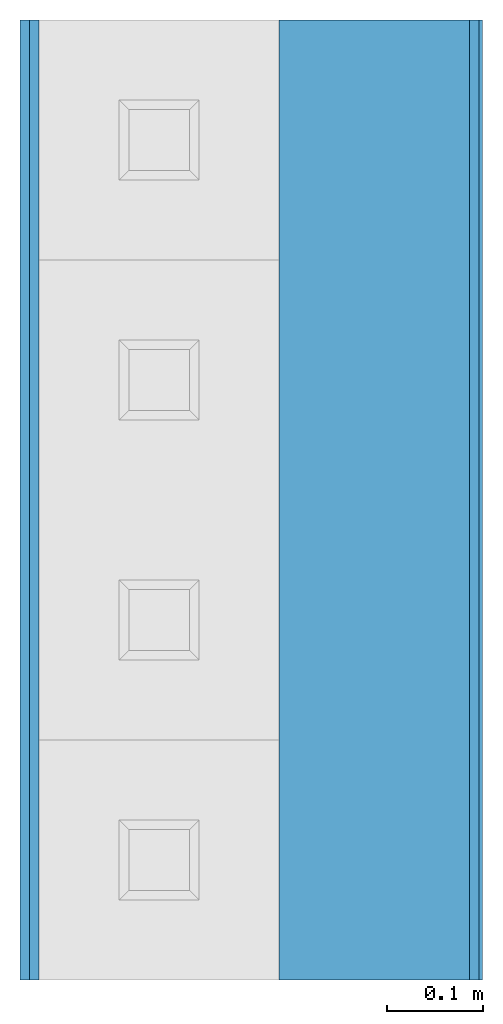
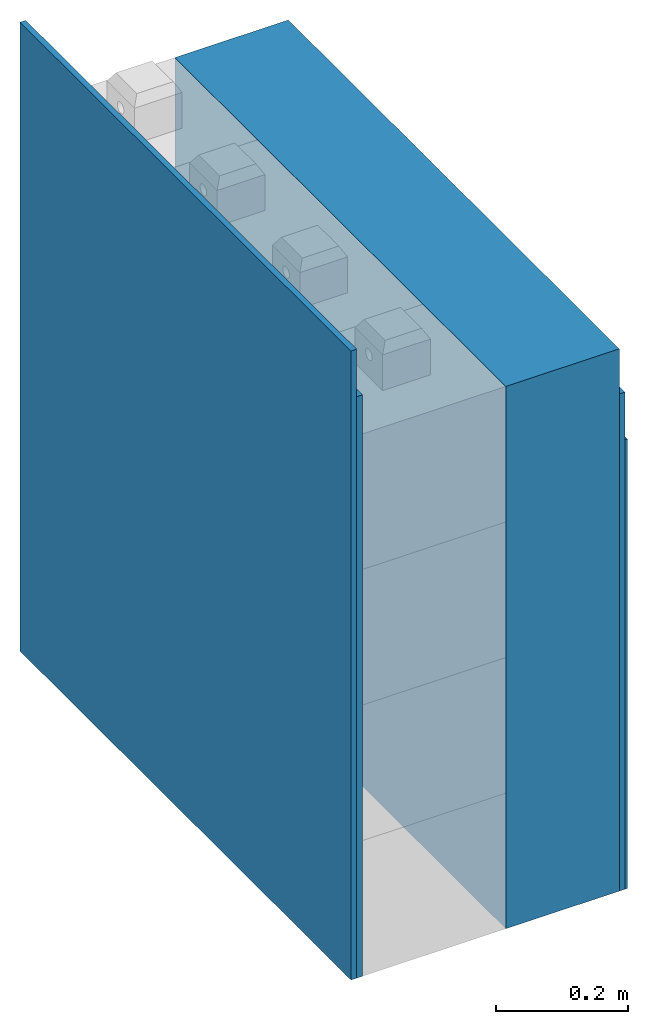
# One storey, incomplete: 5 walls.
"""IFC4 building model written with IfcOpenShell, lengths in centimetres."""

from ifc_helpers import new_model, entity, si_unit, converted_unit, direction, frame, origin, place, context, subcontext, project, spatial, indexed_curve, outline, extrude, material, constituent, constituent_set, type_object, element, save


model = new_model("IFC4")

# Units and contexts
model_context = context("Model", 3, precision=0.001, world=origin(), true_north=direction((0.0, 1.0)))
body_context = subcontext(model_context, "Body", "Model", "MODEL_VIEW")
ifc_project = project(units=[si_unit("LENGTHUNIT", "METRE", prefix="CENTI"), si_unit("AREAUNIT", "SQUARE_METRE"), si_unit("VOLUMEUNIT", "CUBIC_METRE"), converted_unit("PLANEANGLEUNIT", "DEGREE", entity("IfcPlaneAngleMeasure", 0.017453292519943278), si_unit("PLANEANGLEUNIT", "RADIAN"), dimensions=[0, 0, 0, 0, 0, 0, 0])], contexts=[model_context])

# Site, building, storey
site_placement = place(None, origin())
site = spatial("IfcSite", under=ifc_project, at=site_placement, Name="Default", CompositionType="ELEMENT")
building_placement = place(site_placement, origin())
building = spatial("IfcBuilding", under=site, at=building_placement, CompositionType="ELEMENT")
storey_placement = place(building_placement, frame((0.0, 0.0, -12.0)))
storey = spatial("IfcBuildingStorey", under=building, at=storey_placement, Name="L00__ABOVE Slab", CompositionType="ELEMENT", Elevation=-12.000000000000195)

# Walls
ifc_material_1 = material(Name="_FND LAYERS__Insulation__Foam Glass__Glapor", Category="Unassigned")
ifc_constituent_1 = constituent(ifc_material_1, Name="_FND LAYERS__Insulation__Foam Glass__Glapor", Category="Unassigned", fraction=1.0)
ifc_constituent_set_1 = constituent_set(constituents=[ifc_constituent_1], Name="Basic Wall:wll__WP & INSULATION_1cm")
wall_type_1 = type_object("IfcWallType", Name="Walls : Basic Wall : wll__WP & INSULATION_1cm", PredefinedType="STANDARD", material=ifc_constituent_set_1)
wall_1_placement = place(storey_placement, frame((5379.77310386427, 1584.809210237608, 10.0), z_axis=(0.0, 0.0, 1.0), x_axis=(0.0, 1.0, 0.0)))
element("IfcWall", 1, at=wall_1_placement, inside=storey, type_object=wall_type_1, material=ifc_constituent_set_1, Name="Walls : Basic Wall : wll__WP & INSULATION_1cm", PredefinedType="NOTDEFINED", context=body_context, shape_type="SweptSolid", body=[
    extrude(outline(indexed_curve([(100.00000000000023, 0.499999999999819), (4.668391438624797e-15, 0.4999999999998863), (-4.668391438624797e-15, -0.4999999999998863), (100.00000000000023, -0.4999999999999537), (100.00000000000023, 0.499999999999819)], self_intersect=False)), origin(), (0.0, 0.0, 1.0), 91.66666666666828),
])
wall_2_placement = place(storey_placement, frame((5333.973103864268, 1584.8092102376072, 10.0), z_axis=(0.0, 0.0, 1.0), x_axis=(0.0, 1.0, 0.0)))
element("IfcWall", 2, at=wall_2_placement, inside=storey, type_object=wall_type_1, material=ifc_constituent_set_1, Name="Walls : Basic Wall : wll__WP & INSULATION_1cm", PredefinedType="NOTDEFINED", context=body_context, shape_type="SweptSolid", body=[
    extrude(outline(indexed_curve([(100.00000000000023, 0.499999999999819), (4.668391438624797e-15, 0.4999999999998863), (-4.668391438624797e-15, -0.4999999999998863), (100.00000000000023, -0.4999999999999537), (100.00000000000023, 0.499999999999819)], self_intersect=False)), origin(), (0.0, 0.0, 1.0), 107.20293484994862),
])
wall_3_placement = place(storey_placement, frame((5332.973103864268, 1584.8092102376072, 10.0), z_axis=(0.0, 0.0, 1.0), x_axis=(0.0, 1.0, 0.0)))
element("IfcWall", 3, at=wall_3_placement, inside=storey, type_object=wall_type_1, material=ifc_constituent_set_1, Name="Walls : Basic Wall : wll__WP & INSULATION_1cm", PredefinedType="NOTDEFINED", context=body_context, shape_type="SweptSolid", body=[
    extrude(outline(indexed_curve([(100.00000000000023, 0.499999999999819), (4.668391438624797e-15, 0.4999999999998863), (-4.668391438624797e-15, -0.4999999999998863), (100.00000000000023, -0.4999999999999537), (100.00000000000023, 0.499999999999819)], self_intersect=False)), origin(), (0.0, 0.0, 1.0), 115.9712402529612),
])
ifc_material_2 = material(Name="_WLL & CLG FINISHES__Spray-cork", Category="플라스틱")
ifc_constituent_2 = constituent(ifc_material_2, Name="_WLL & CLG FINISHES__Spray-cork", Category="플라스틱", fraction=1.0)
ifc_constituent_set_2 = constituent_set(constituents=[ifc_constituent_2], Name="Basic Wall:wll__INT FINISH__Spritzkork 0.4cm__TriqBriq, TN.1")
wall_type_2 = type_object("IfcWallType", Name="Walls : Basic Wall : wll__INT FINISH__Spritzkork 0.4cm__TriqBriq, TN.1", PredefinedType="STANDARD", material=ifc_constituent_set_2)
wall_4_placement = place(storey_placement, frame((5380.473103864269, 1584.809210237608, 10.0), z_axis=(0.0, 0.0, 1.0), x_axis=(0.0, 1.0, 0.0)))
element("IfcWall", 4, at=wall_4_placement, inside=storey, type_object=wall_type_2, material=ifc_constituent_set_2, Name="Walls : Basic Wall : wll__INT FINISH__Spritzkork 0.4cm__TriqBriq, TN.1", PredefinedType="NOTDEFINED", context=body_context, shape_type="SweptSolid", body=[
    extrude(outline(indexed_curve([(100.00000000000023, 0.19999999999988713), (1.8673565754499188e-15, 0.19999999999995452), (-1.8673565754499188e-15, -0.19999999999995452), (100.00000000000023, -0.2000000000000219), (100.00000000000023, 0.19999999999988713)], self_intersect=False)), origin(), (0.0, 0.0, 1.0), 82.90025646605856),
])
ifc_material_3 = material(Name="_FND LAYERS__Protection & Drainage Membrane__Dimple Sheet", Category="Unassigned")
ifc_constituent_3 = constituent(ifc_material_3, Name="_FND LAYERS__Protection & Drainage Membrane__Dimple Sheet", Category="Unassigned", fraction=0.04040404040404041)
ifc_material_4 = material(Name="_FCD LAYERS__Adhesive__Cell Filling__Glapor", Category="Unassigned")
ifc_constituent_4 = constituent(ifc_material_4, Name="_FCD LAYERS__Adhesive__Cell Filling__Glapor", Category="Unassigned", fraction=0.020202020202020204)
ifc_constituent_5 = constituent(ifc_material_1, Name="_FND LAYERS__Insulation__Foam Glass__Glapor", Category="Unassigned", fraction=0.9090909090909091)
ifc_material_5 = material(Name="_FCD LAYERS__Adhesive__For Foam Glass__Glapor", Category="Unassigned")
ifc_constituent_6 = constituent(ifc_material_5, Name="_FCD LAYERS__Adhesive__For Foam Glass__Glapor", Category="Unassigned", fraction=0.0303030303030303)
ifc_constituent_set_3 = constituent_set(constituents=[ifc_constituent_3, ifc_constituent_4, ifc_constituent_5, ifc_constituent_6], Name="Basic Wall:wll__WP & INSULATION__Foam Glass 20cm__On Heated Bsmt Wall, TriqBriq, IZ.1 4")
wall_type_3 = type_object("IfcWallType", Name="Walls : Basic Wall : wll__WP & INSULATION__Foam Glass 20cm__On Heated Bsmt Wall, TriqBriq, IZ.1 4", PredefinedType="STANDARD", material=ifc_constituent_set_3)
wall_5_placement = place(storey_placement, frame((5369.373103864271, 1684.8092102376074, 10.0), z_axis=(0.0, 0.0, 1.0), x_axis=(0.0, -1.0, 0.0)))
element("IfcWall", 5, at=wall_5_placement, inside=storey, type_object=wall_type_3, material=ifc_constituent_set_3, Name="Walls : Basic Wall : wll__WP & INSULATION__Foam Glass 20cm__On Heated Bsmt Wall, TriqBriq, IZ.1 4", PredefinedType="NOTDEFINED", context=body_context, shape_type="SweptSolid", body=[
    extrude(outline(indexed_curve([(-0.39999999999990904, -50.000000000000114), (0.39999999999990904, -50.000000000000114), (0.39999999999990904, 50.000000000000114), (-0.39999999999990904, 50.000000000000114), (-0.39999999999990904, -50.000000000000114)], self_intersect=False)), frame((50.0, -9.499999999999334, 0.0), z_axis=(0.0, 0.0, 1.0), x_axis=(0.0, 1.0, 0.0)), (0.0, 0.0, 1.0), 100.00000000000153),
    extrude(outline(indexed_curve([(-0.3000000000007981, -50.000000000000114), (0.29999999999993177, -50.000000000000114), (0.29999999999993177, 50.000000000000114), (-0.29999999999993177, 50.000000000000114), (-0.3000000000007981, -50.000000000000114)], self_intersect=False)), frame((50.0, 9.599999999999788, 0.0), z_axis=(0.0, 0.0, 1.0), x_axis=(0.0, -1.0, 0.0)), (0.0, 0.0, 1.0), 100.00000000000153),
    extrude(outline(indexed_curve([(-50.000000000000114, -8.999999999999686), (50.000000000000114, -8.999999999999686), (50.000000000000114, 8.999999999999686), (-50.000000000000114, 8.999999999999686), (-50.000000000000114, -8.999999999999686)], self_intersect=False)), frame((50.0, 0.3000000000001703, 0.0)), (0.0, 0.0, 1.0), 100.00000000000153),
    extrude(outline(indexed_curve([(-50.000000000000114, -0.19999999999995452), (50.000000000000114, -0.19999999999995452), (50.000000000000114, 0.19999999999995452), (-50.000000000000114, 0.19999999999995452), (-50.000000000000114, -0.19999999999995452)], self_intersect=False)), frame((50.0, -8.899999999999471, 0.0)), (0.0, 0.0, 1.0), 100.00000000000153),
])

save(model, "model.ifc")
